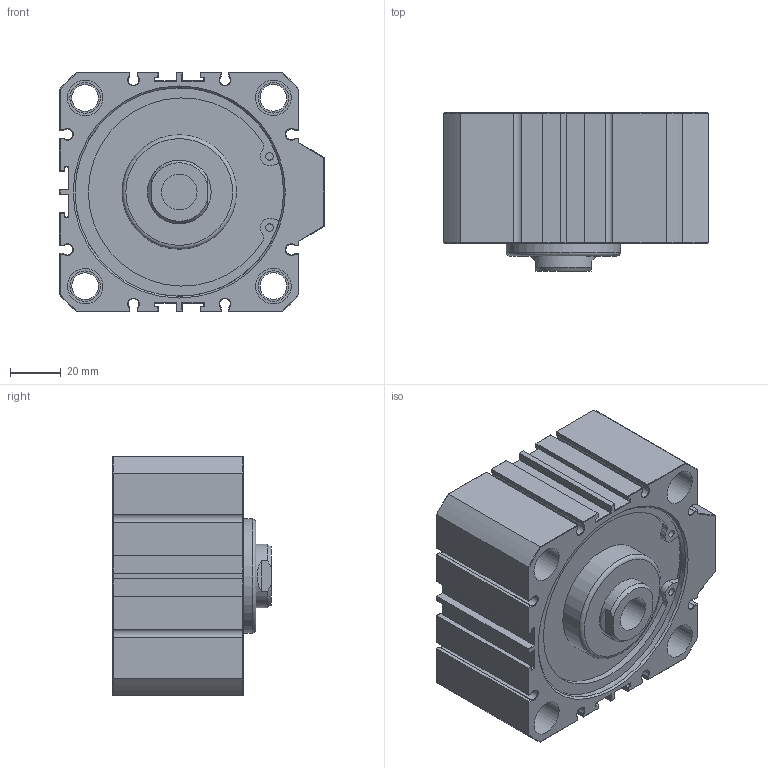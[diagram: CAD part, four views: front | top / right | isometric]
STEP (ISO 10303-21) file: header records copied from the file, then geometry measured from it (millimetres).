
FILE_DESCRIPTION(/* description */ (''),/* implementation_level */ '2;1');
FILE_NAME(/* name */ 'AJC-SD80X10N',/* time_stamp */ '2019-06-14T15:12:52+08:00',/* author */ ('JEFF HUANG'),/* organization */ ('TAIWAN AMAC CLAMP INDUSTRIAL CO., LTD.'),/* preprocessor_version */ 'ST-DEVELOPER v16.7',/* originating_system */ 'DEX',/* authorisation */ $);
FILE_SCHEMA (('AUTOMOTIVE_DESIGN {1 0 10303 214 3 1 1}'));
Length unit declared in the file: millimetre
Products named in the file (1): AJC-SD80X10N
Bounding box: 104 x 62.3 x 94 mm (x, y, z)
Volume: 392669.5 mm3; surface area: 58403.3 mm2
Topology: 1 solids, 1 shells, 382 faces, 854 edges, 470 vertices
Faces by surface type: plane 246, cylinder 72, cone 62, torus 2
Full cylindrical faces by diameter (mm): 3 x4, 10.5 x4, 12 x8, 14 x9, 15.806 x2, 25 x1, 45 x1, 50 x1, 82 x2
Entity records: 12512 total; most frequent: DIRECTION 1708, CARTESIAN_POINT 1691, ORIENTED_EDGE 1562, EDGE_CURVE 781, LINE 580, VECTOR 580, AXIS2_PLACEMENT_3D 564, VERTEX_POINT 467
